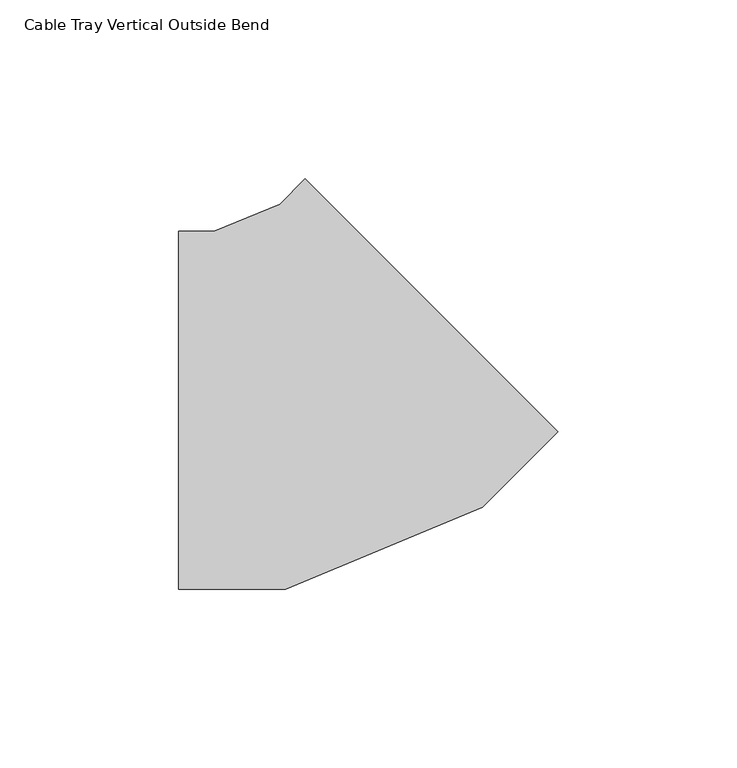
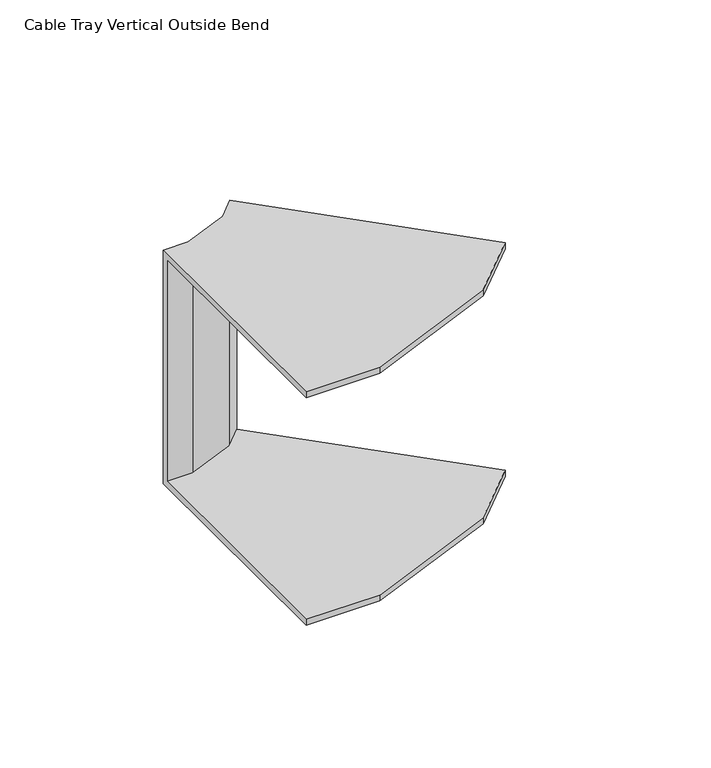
"""IFC4 building model written with IfcOpenShell, lengths in millimetres: cable carrier fitting geometry, Cable Tray Vertical Outside Bend : ELEC_ELV_TKG_N2402."""

from ifc_helpers import new_model, si_unit, origin, place, context, project, spatial, faceted_brep, source, transform, mapped, element, save


def cable_tray_vertical_outside_bend_fceaed45(model_context):
    return source(origin(), model_context, "Body", "Brep", [
        faceted_brep([(-41.4213562, -50.0, 50.0), (-41.4213562, 50.0, 50.0), (-41.4213562, 50.0, -50.0), (-41.4213562, -50.0, -50.0), (-41.4213562, -50.0, -47.46), (-41.4213562, 47.46, -47.46), (-41.4213562, 47.46, 47.46), (-41.4213562, -50.0, 47.46), (64.6446609, -6.0660172, 50.0), (64.6446609, -6.0660172, 47.46), (-4.269966, 62.8486097, 47.46), (-4.269966, 62.8486097, -47.46), (64.6446609, -6.0660172, -47.46), (64.6446609, -6.0660172, -50.0), (-6.0660172, 64.6446609, -50.0), (-6.0660172, 64.6446609, 50.0), (-11.5845011, -50.0, 50.0), (43.5468184, -27.1638598, 50.0), (-13.0986314, 57.6120467, 50.0), (-31.4757379, 50.0, 50.0), (-31.4757379, 50.0, -50.0), (-13.0986314, 57.6120467, -50.0), (43.5468184, -27.1638598, -50.0), (-11.5845011, -50.0, -50.0), (-11.5845011, -50.0, -47.46), (43.5468184, -27.1638598, -47.46), (-11.659837, 55.4587387, -47.46), (-30.9705005, 47.46, -47.46), (-30.9705005, 47.46, 47.46), (-11.659837, 55.4587387, 47.46), (43.5468184, -27.1638598, 47.46), (-11.5845011, -50.0, 47.46)], [[[0, 1, 2, 3, 4, 5, 6, 7]], [[8, 9, 10, 11, 12, 13, 14, 15]], [[1, 0, 16, 17, 8, 15, 18, 19]], [[2, 1, 19, 20]], [[3, 2, 20, 21, 14, 13, 22, 23]], [[4, 3, 23, 24]], [[5, 4, 24, 25, 12, 11, 26, 27]], [[6, 5, 27, 28]], [[7, 6, 28, 29, 10, 9, 30, 31]], [[0, 7, 31, 16]], [[20, 19, 18, 21]], [[24, 23, 22, 25]], [[28, 27, 26, 29]], [[16, 31, 30, 17]], [[21, 18, 15, 14]], [[25, 22, 13, 12]], [[29, 26, 11, 10]], [[17, 30, 9, 8]]]),
    ])


if __name__ == "__main__":
    model = new_model("IFC4")
    model_context = context("Model", 3, world=origin())
    ifc_project = project(units=[si_unit("LENGTHUNIT", "METRE", prefix="MILLI")], contexts=[model_context])
    site = spatial("IfcSite", under=ifc_project)
    building = spatial("IfcBuilding", under=site)
    placement = place(None, origin())
    cable_tray_vertical_outside_bend_shape = cable_tray_vertical_outside_bend_fceaed45(model_context)
    element("IfcCableCarrierFitting", 1, ObjectType="Cable Tray Vertical Outside Bend : ELEC_ELV_TKG_N2402", at=placement, inside=building, context=model_context, shape_type="MappedRepresentation", body=[
        mapped(cable_tray_vertical_outside_bend_shape, transform((0.0, 0.0, 0.0), x_axis=(1.0, 0.0, 0.0), y_axis=(0.0, 1.0, 0.0), z_axis=(0.0, 0.0, 1.0))),
    ])
    save(model, "model.ifc")
